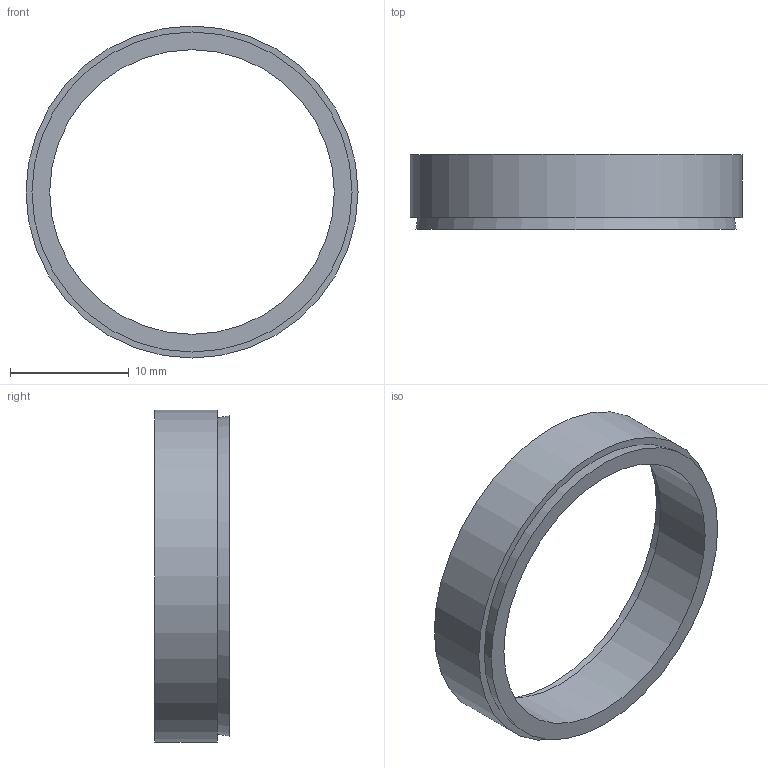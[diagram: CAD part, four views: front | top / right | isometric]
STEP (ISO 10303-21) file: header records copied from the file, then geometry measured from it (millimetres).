
FILE_DESCRIPTION( ( 'Unknown' ), '1' );
FILE_NAME( 'C:/Dokumente und Einstellungen/Sven/Desktop/homepage/cad - homepage/KBS50/KBS 50 - 24 x 28.stp', 'Unknown', ( 'Unknown' ), ( 'Unknown' ), 'XStep 1.0', 'Unknown', ' ' );
FILE_SCHEMA( ( 'automotive_design' ) );
Length unit declared in the file: millimetre
Products named in the file (1): 1
Bounding box: 28 x 6.3 x 28 mm (x, y, z)
Volume: 934.5 mm3; surface area: 1383.9 mm2
Topology: 1 solids, 1 shells, 8 faces, 12 edges, 8 vertices
Faces by surface type: plane 4, cylinder 2, cone 2
Full cylindrical faces by diameter (mm): 24 x1, 28 x1
Entity records: 248 total; most frequent: DIRECTION 34, CARTESIAN_POINT 25, AXIS2_PLACEMENT_3D 17, EDGE_LOOP 16, ORIENTED_EDGE 16, FACE_OUTER_BOUND 10, STYLED_ITEM 8, PRESENTATION_STYLE_ASSIGNMENT 8
